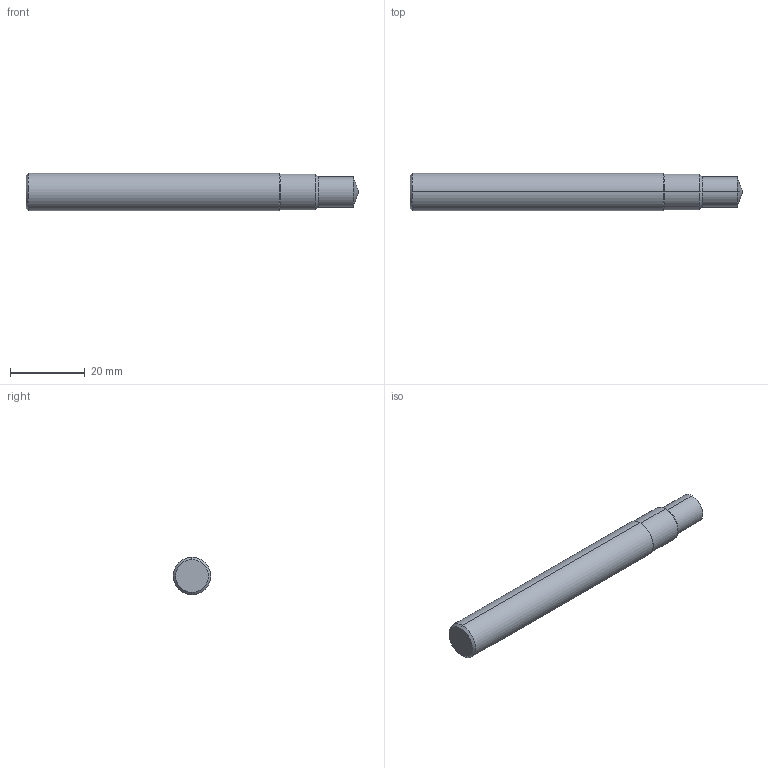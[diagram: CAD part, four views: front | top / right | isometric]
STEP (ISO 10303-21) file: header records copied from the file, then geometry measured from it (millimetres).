
FILE_DESCRIPTION (( 'STEP AP203' ), '1' );
FILE_NAME ('407026-RD-SAE-03A.STEP', '2024-10-02T17:07:25', ( '' ), ( '' ), 'SwSTEP 2.0', 'SolidWorks 2024', '' );
FILE_SCHEMA (( 'CONFIG_CONTROL_DESIGN' ));
Length unit declared in the file: inch
Products named in the file (1): 407026-RD-SAE-03A
Bounding box: 89 x 10 x 10 mm (x, y, z)
Volume: 6575.2 mm3; surface area: 2814.7 mm2
Topology: 1 solids, 1 shells, 16 faces, 30 edges, 16 vertices
Faces by surface type: cone 8, cylinder 6, plane 2
Entity records: 473 total; most frequent: DIRECTION 80, CARTESIAN_POINT 63, ORIENTED_EDGE 60, AXIS2_PLACEMENT_3D 33, EDGE_CURVE 30, CIRCLE 16, FACE_OUTER_BOUND 16, EDGE_LOOP 16
